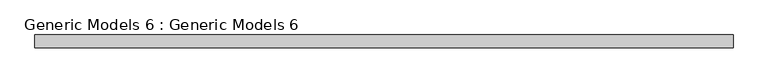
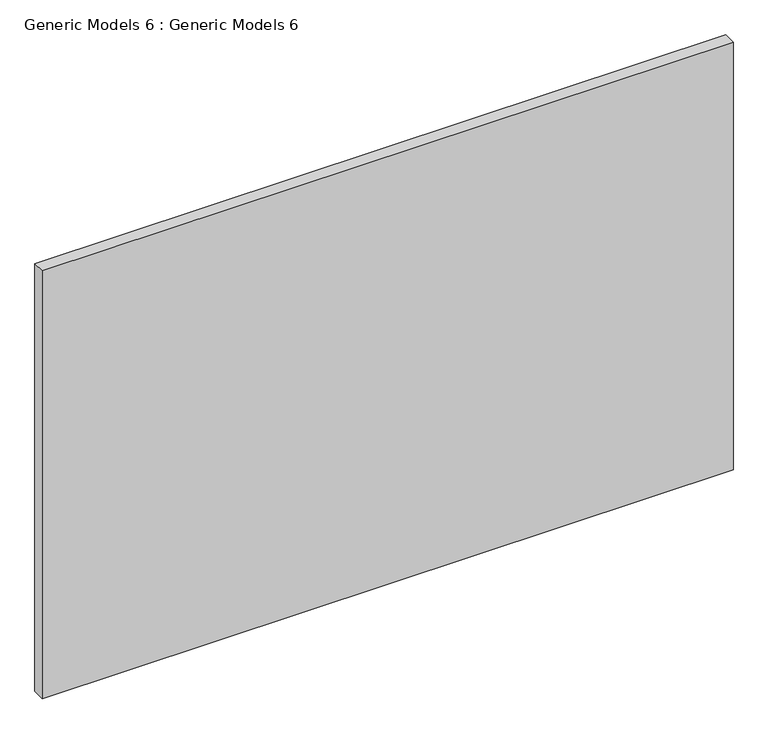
"""IFC4 building model written with IfcOpenShell, lengths in millimetres: proxy geometry, Generic Models 6 : Generic Models 6."""

from ifc_helpers import new_model, si_unit, frame, origin, place, context, project, spatial, polyline, outline, extrude, source, transform, mapped, element, save


def generic_models_6_generic_models_6_da21bc6a(model_context):
    return source(origin(), model_context, "Body", "SweptSolid", [
        extrude(outline(polyline([(-2044.7, 3441.7), (-2044.7, 3416.3), (-3441.7, 3416.3), (-3441.7, 3441.7), (-2044.7, 3441.7)])), frame((0.0, 0.0, 3348.0), z_axis=(0.0, 0.0, 1.0), x_axis=(1.0, 0.0, 0.0)), (0.0, 0.0, 1.0), 914.4),
    ])


if __name__ == "__main__":
    model = new_model("IFC4")
    model_context = context("Model", 3, world=origin())
    ifc_project = project(units=[si_unit("LENGTHUNIT", "METRE", prefix="MILLI")], contexts=[model_context])
    site = spatial("IfcSite", under=ifc_project)
    building = spatial("IfcBuilding", under=site)
    placement = place(None, origin())
    generic_models_6_generic_models_6_shape = generic_models_6_generic_models_6_da21bc6a(model_context)
    element("IfcBuildingElementProxy", 1, Name="Generic Models 6 : Generic Models 6", ObjectType="Generic Models 6 : Generic Models 6", at=placement, inside=building, context=model_context, shape_type="MappedRepresentation", body=[
        mapped(generic_models_6_generic_models_6_shape, transform((0.0, 0.0, 0.0), x_axis=(1.0, 0.0, 0.0), y_axis=(0.0, 1.0, 0.0), z_axis=(0.0, 0.0, 1.0))),
    ])
    save(model, "model.ifc")
